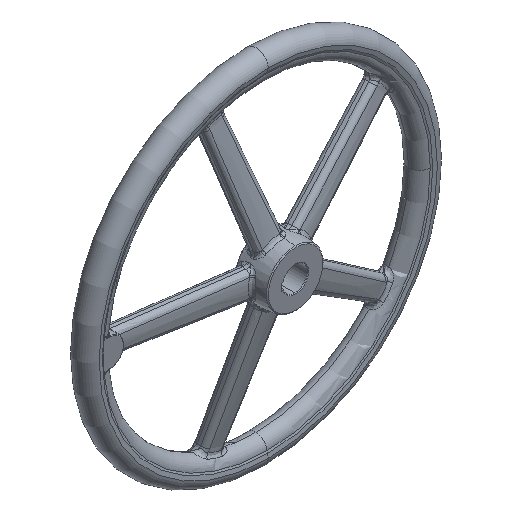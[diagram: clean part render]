
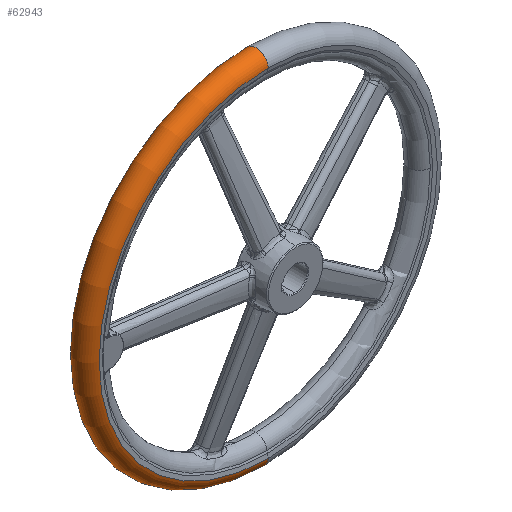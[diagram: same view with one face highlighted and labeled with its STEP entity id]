
A CAD part, isometric view. The second image highlights one B-rep face of the part: STEP entity #62943.
In plain terms, the highlighted toroidal (fillet/blend) face has major radius 232.939 mm and minor radius 17.061 mm.
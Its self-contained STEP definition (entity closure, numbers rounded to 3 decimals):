
#113 = VERTEX_POINT ( 'NONE', #706 ) ;
#706 = CARTESIAN_POINT ( 'NONE',  ( 0., 72., -234.378 ) ) ;
#1030 = VERTEX_POINT ( 'NONE', #28660 ) ;
#1040 = EDGE_CURVE ( 'NONE', #113, #1030, #28647, .T. ) ;
#17380 = AXIS2_PLACEMENT_3D ( 'NONE', #17382, #17428, #17427 ) ;
#17382 = CARTESIAN_POINT ( 'NONE',  ( 0., 72., 0. ) ) ;
#17387 = CIRCLE ( 'NONE', #17380, 234.378 ) ;
#17427 = DIRECTION ( 'NONE',  ( 0., 0., -1. ) ) ;
#17428 = DIRECTION ( 'NONE',  ( 0., -1., 0. ) ) ;
#17430 = CARTESIAN_POINT ( 'NONE',  ( 0., 55., 232.939 ) ) ;
#17636 = DIRECTION ( 'NONE',  ( 0., 0., -1. ) ) ;
#17637 = DIRECTION ( 'NONE',  ( 1., 0., 0. ) ) ;
#17638 = AXIS2_PLACEMENT_3D ( 'NONE', #17430, #17637, #17636 ) ;
#17639 = CIRCLE ( 'NONE', #17638, 17.061 ) ;
#17837 = AXIS2_PLACEMENT_3D ( 'NONE', #17960, #17959, #17956 ) ;
#17887 = CIRCLE ( 'NONE', #17837, 234.378 ) ;
#17888 = CARTESIAN_POINT ( 'NONE',  ( 0., 72., 234.378 ) ) ;
#17956 = DIRECTION ( 'NONE',  ( 0., 0., -1. ) ) ;
#17959 = DIRECTION ( 'NONE',  ( 0., -1., 0. ) ) ;
#17960 = CARTESIAN_POINT ( 'NONE',  ( 0., 38., 0. ) ) ;
#18028 = CARTESIAN_POINT ( 'NONE',  ( 0., 38., 234.378 ) ) ;
#28633 = CARTESIAN_POINT ( 'NONE',  ( 0., 55., -232.939 ) ) ;
#28635 = AXIS2_PLACEMENT_3D ( 'NONE', #28633, #28690, #28689 ) ;
#28647 = CIRCLE ( 'NONE', #28635, 17.061 ) ;
#28660 = CARTESIAN_POINT ( 'NONE',  ( 0., 38., -234.378 ) ) ;
#28689 = DIRECTION ( 'NONE',  ( 0., 0., 1. ) ) ;
#28690 = DIRECTION ( 'NONE',  ( -1., 0., 0. ) ) ;
#53809 = EDGE_CURVE ( 'NONE', #53838, #113, #17387, .T. ) ;
#53838 = VERTEX_POINT ( 'NONE', #17888 ) ;
#53844 = EDGE_CURVE ( 'NONE', #53838, #53854, #17639, .T. ) ;
#53851 = EDGE_CURVE ( 'NONE', #53854, #1030, #17887, .T. ) ;
#53854 = VERTEX_POINT ( 'NONE', #18028 ) ;
#54642 = EDGE_LOOP ( 'NONE', ( #62942, #62941, #63005, #62947 ) ) ;
#55516 = DIRECTION ( 'NONE',  ( 0., 0., -1. ) ) ;
#55517 = DIRECTION ( 'NONE',  ( 0., -1., 0. ) ) ;
#55518 = FACE_OUTER_BOUND ( 'NONE', #54642, .T. ) ;
#55519 = AXIS2_PLACEMENT_3D ( 'NONE', #55561, #55517, #55516 ) ;
#55561 = CARTESIAN_POINT ( 'NONE',  ( 0., 55., 0. ) ) ;
#55570 = TOROIDAL_SURFACE ( 'NONE', #55519, 232.939, 17.061 ) ;
#62941 = ORIENTED_EDGE ( 'NONE', *, *, #53809, .T. ) ;
#62942 = ORIENTED_EDGE ( 'NONE', *, *, #53844, .F. ) ;
#62943 = ADVANCED_FACE ( 'NONE', ( #55518 ), #55570, .T. ) ;
#62947 = ORIENTED_EDGE ( 'NONE', *, *, #53851, .F. ) ;
#63005 = ORIENTED_EDGE ( 'NONE', *, *, #1040, .T. ) ;
